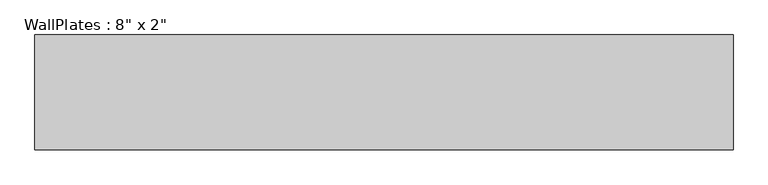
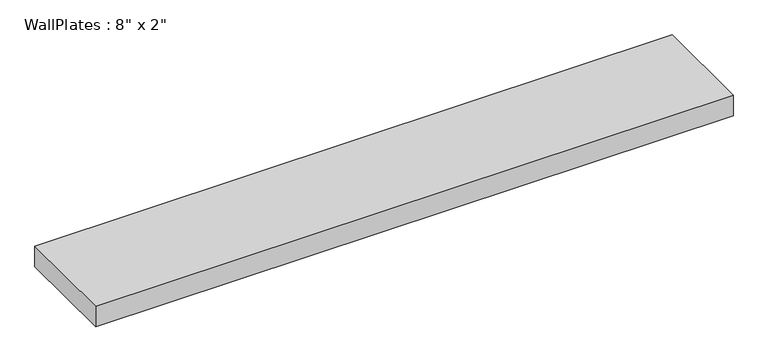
"""IFC4 building model written with IfcOpenShell, lengths in millimetres: beam geometry."""

from ifc_helpers import new_model, si_unit, frame, origin, place, context, project, spatial, polyline, outline, extrude, source, transform, mapped, element, save


def beam_6518eab1(model_context):
    return source(origin(), model_context, "Body", "SweptSolid", [
        extrude(outline(polyline([(-558.805, -92.075), (-558.805, 92.075), (558.805, 92.075), (558.805, -92.075), (-558.805, -92.075)])), frame((0.0, 0.0, -19.05), z_axis=(0.0, 0.0, 1.0), x_axis=(1.0, 0.0, 0.0)), (0.0, 0.0, 1.0), 38.1),
    ])


if __name__ == "__main__":
    model = new_model("IFC4")
    model_context = context("Model", 3, world=origin())
    ifc_project = project(units=[si_unit("LENGTHUNIT", "METRE", prefix="MILLI")], contexts=[model_context])
    site = spatial("IfcSite", under=ifc_project)
    building = spatial("IfcBuilding", under=site)
    placement = place(None, origin())
    beam_shape = beam_6518eab1(model_context)
    element("IfcBeam", 1, ObjectType="WallPlates : 8\" x 2\"", at=placement, inside=building, context=model_context, shape_type="MappedRepresentation", body=[
        mapped(beam_shape, transform((0.0, 0.0, 0.0), x_axis=(1.0, 0.0, 0.0), y_axis=(0.0, 1.0, 0.0), z_axis=(0.0, 0.0, 1.0))),
    ])
    save(model, "model.ifc")
